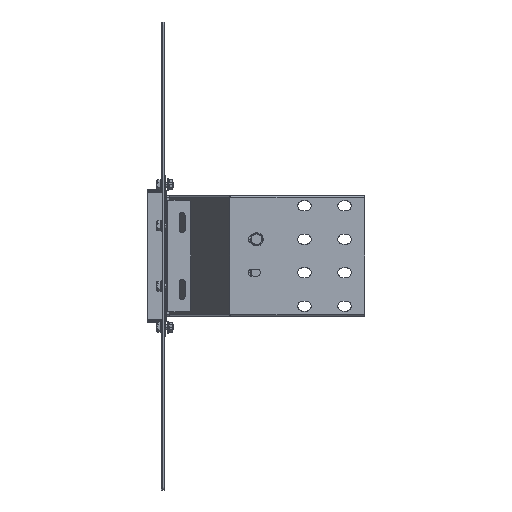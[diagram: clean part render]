
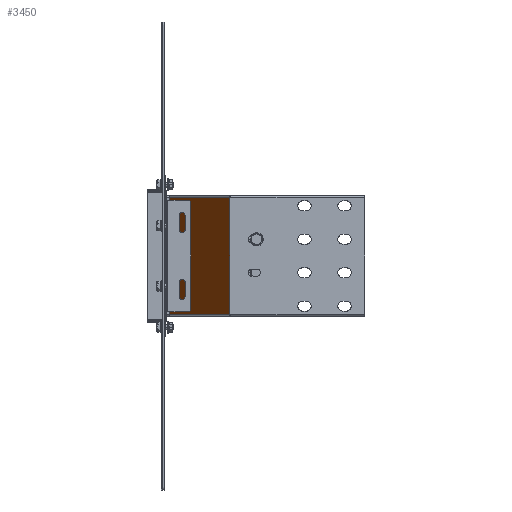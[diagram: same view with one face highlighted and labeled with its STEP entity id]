
A CAD part, front view. The second image highlights one B-rep face of the part: STEP entity #3450.
In plain terms, the highlighted planar face has unit normal (-0.916, -0.402, 0).
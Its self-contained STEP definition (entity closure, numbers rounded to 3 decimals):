
#3442=AXIS2_PLACEMENT_3D('Plane Axis2P3D',#3439,#3440,#3441) ;
#1854=CARTESIAN_POINT('Vertex',(98.105,-217.9,-87.1)) ;
#1868=CARTESIAN_POINT('Vertex',(98.105,-217.9,87.1)) ;
#1871=CARTESIAN_POINT('Line Origine',(98.105,-217.9,0.)) ;
#2656=CARTESIAN_POINT('Vertex',(8.105,-12.74,87.1)) ;
#2659=CARTESIAN_POINT('Line Origine',(52.344,-113.585,87.1)) ;
#2766=CARTESIAN_POINT('Vertex',(8.105,-12.74,-87.1)) ;
#2801=CARTESIAN_POINT('Line Origine',(52.344,-113.585,-87.1)) ;
#2843=CARTESIAN_POINT('Line Origine',(8.105,-12.74,0.)) ;
#3439=CARTESIAN_POINT('Axis2P3D Location',(98.867,-219.635,-87.1)) ;
#1872=DIRECTION('Vector Direction',(0.,0.,1.)) ;
#2660=DIRECTION('Vector Direction',(0.402,-0.916,0.)) ;
#2802=DIRECTION('Vector Direction',(0.402,-0.916,0.)) ;
#2844=DIRECTION('Vector Direction',(0.,0.,1.)) ;
#3440=DIRECTION('Axis2P3D Direction',(-0.916,-0.402,0.)) ;
#3441=DIRECTION('Axis2P3D XDirection',(0.,0.,1.)) ;
#1873=VECTOR('Line Direction',#1872,1.) ;
#2661=VECTOR('Line Direction',#2660,1.) ;
#2803=VECTOR('Line Direction',#2802,1.) ;
#2845=VECTOR('Line Direction',#2844,1.) ;
#3445=ORIENTED_EDGE('',*,*,#2663,.T.) ;
#3446=ORIENTED_EDGE('',*,*,#2847,.F.) ;
#3447=ORIENTED_EDGE('',*,*,#2805,.F.) ;
#3448=ORIENTED_EDGE('',*,*,#1875,.T.) ;
#3450=ADVANCED_FACE('N',(#3449),#3443,.T.) ;
#1875=EDGE_CURVE('',#1855,#1869,#1874,.T.) ;
#2663=EDGE_CURVE('',#1869,#2657,#2662,.F.) ;
#2805=EDGE_CURVE('',#1855,#2767,#2804,.F.) ;
#2847=EDGE_CURVE('',#2767,#2657,#2846,.T.) ;
#3444=EDGE_LOOP('',(#3445,#3446,#3447,#3448)) ;
#3449=FACE_OUTER_BOUND('',#3444,.T.) ;
#1874=LINE('Line',#1871,#1873) ;
#2662=LINE('Line',#2659,#2661) ;
#2804=LINE('Line',#2801,#2803) ;
#2846=LINE('Line',#2843,#2845) ;
#3443=PLANE('',#3442) ;
#1855=VERTEX_POINT('',#1854) ;
#1869=VERTEX_POINT('',#1868) ;
#2657=VERTEX_POINT('',#2656) ;
#2767=VERTEX_POINT('',#2766) ;
